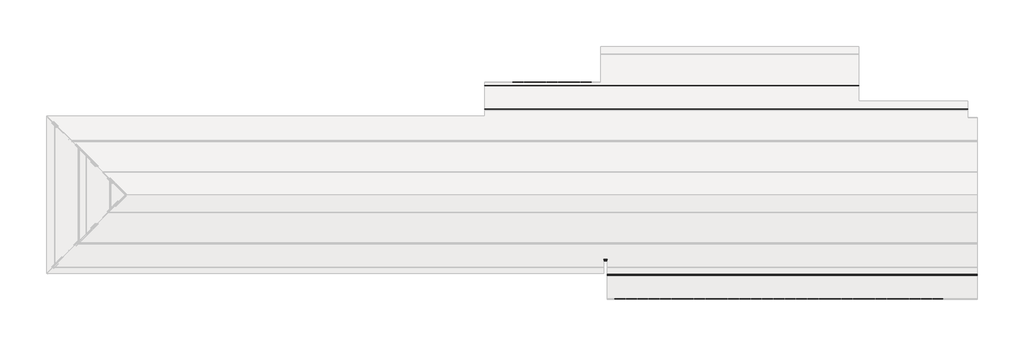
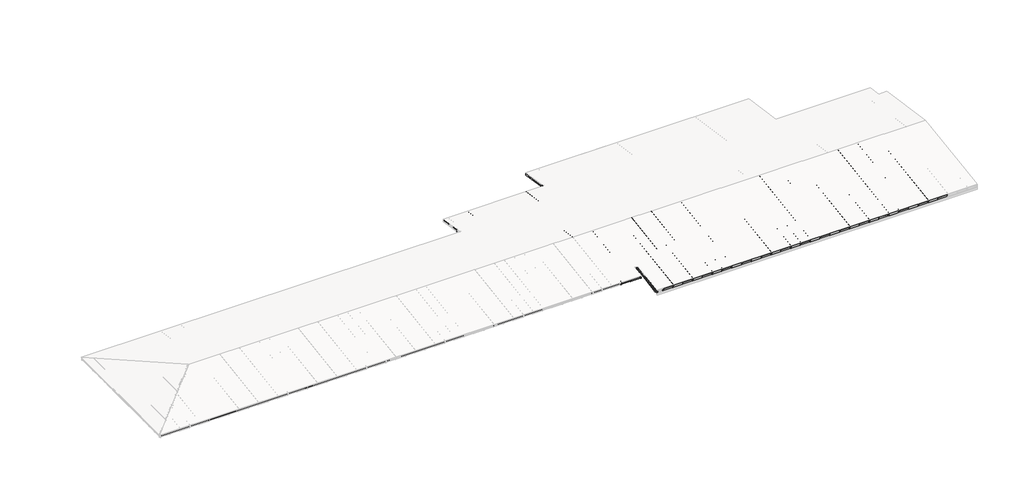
# One storey, part 4 of 5: 62 members, 45 plates.
"""IFC4 building model written with IfcOpenShell, lengths in millimetres."""

from ifc_helpers import new_model, si_unit, origin, place, context, project, spatial, transform, mapped, element, save
from components import rectangular_mullion_ed50eb17, rectangular_mullion_5ee41584, rectangular_mullion_e81b1cfb, rectangular_mullion_a5088d8e, rectangular_mullion_655400e7, rectangular_mullion_9c9e6337, rectangular_mullion_caibro_4x6_cm_25b96661, rectangular_mullion_caibro_4x6_cm_e1b55397, rectangular_mullion_caibro_4x6_cm_011e73ed, rectangular_mullion_caibro_4x6_cm_cc310553, rectangular_mullion_caibro_4x6_cm_ef3f1c05, rectangular_mullion_caibro_4x6_cm_1ae113c8, rectangular_mullion_caibro_4x6_cm_e77ada83, empty_system_panel_empty_7d408543, empty_system_panel_empty_43b0b6da, empty_system_panel_empty_694f84fb, empty_system_panel_empty_0cb638c6, empty_system_panel_empty_b911bb76, empty_system_panel_empty_867e5877, empty_system_panel_empty_82ea4807, empty_system_panel_empty_5a5e46bd

model = new_model("IFC4")

# Units and contexts
model_context = context("Model", 3, world=origin())
ifc_project = project(units=[si_unit("LENGTHUNIT", "METRE", prefix="MILLI")], contexts=[model_context])

# Site, building, storey
site = spatial("IfcSite", under=ifc_project)
building = spatial("IfcBuilding", under=site)
storey = spatial("IfcBuildingStorey", under=building, Name="NÍVEL 1", Elevation=3400.0)

# Members
placement = place(None, origin())
rectangular_mullion_shape = rectangular_mullion_ed50eb17(model_context)
element("IfcMember", 1, ObjectType="Rectangular Mullion : TERÇA 6x12 cm", at=placement, inside=storey, context=model_context, shape_type="MappedRepresentation", body=[
    mapped(rectangular_mullion_shape, transform((1382.6165906, -8219.6155133, 3301.445991), x_axis=(0.0, 0.9889363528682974, 0.1483404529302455), y_axis=(0.0, 0.1483404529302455, -0.9889363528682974), z_axis=(-1.0, 0.0, 0.0))),
])
rectangular_mullion_2_shape = rectangular_mullion_5ee41584(model_context)
element("IfcMember", 2, ObjectType="Rectangular Mullion : TERÇA 6x12 cm", at=placement, inside=storey, context=model_context, shape_type="MappedRepresentation", body=[
    mapped(rectangular_mullion_2_shape, transform((1382.6165906, -8117.0637549, 3316.8287548), x_axis=(0.0, -0.9889363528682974, -0.1483404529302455), y_axis=(0.0, 0.1483404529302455, -0.9889363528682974), z_axis=(1.0, 0.0, 0.0))),
])
rectangular_mullion_3_shape = rectangular_mullion_e81b1cfb(model_context)
element("IfcMember", 3, ObjectType="Rectangular Mullion : RIPA 4x2 cm", at=placement, inside=storey, context=model_context, shape_type="MappedRepresentation", body=[
    mapped(rectangular_mullion_3_shape, transform((1382.6165906, -8117.0637549, 3377.5), x_axis=(0.0, -0.9889363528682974, -0.1483404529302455), y_axis=(0.0, 0.1483404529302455, -0.9889363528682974), z_axis=(1.0, 0.0, 0.0))),
])
rectangular_mullion_4_shape = rectangular_mullion_a5088d8e(model_context)
element("IfcMember", 4, ObjectType="Rectangular Mullion : RIPA 4x2 cm", at=placement, inside=storey, context=model_context, shape_type="MappedRepresentation", body=[
    mapped(rectangular_mullion_4_shape, transform((1232.6165906, -8702.2297096, 3289.7251068), x_axis=(0.0, -0.9889363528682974, -0.1483404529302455), y_axis=(0.0, 0.1483404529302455, -0.9889363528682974), z_axis=(1.0, 0.0, 0.0))),
])
rectangular_mullion_5_shape = rectangular_mullion_655400e7(model_context)
element("IfcMember", 5, ObjectType="Rectangular Mullion : RIPA 4x2 cm", at=placement, inside=storey, context=model_context, shape_type="MappedRepresentation", body=[
    mapped(rectangular_mullion_5_shape, transform((1382.6165906, -9451.1573043, 3177.3859676), x_axis=(0.0, 0.9889363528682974, 0.1483404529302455), y_axis=(0.0, 0.1483404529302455, -0.9889363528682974), z_axis=(-1.0, 0.0, 0.0))),
])
element("IfcMember", 6, ObjectType="Rectangular Mullion : RIPA 4x2 cm", at=placement, inside=storey, context=model_context, shape_type="MappedRepresentation", body=[
    mapped(rectangular_mullion_5_shape, transform((1382.6165906, -9105.0295808, 3229.3051261), x_axis=(0.0, 0.9889363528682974, 0.1483404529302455), y_axis=(0.0, 0.1483404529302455, -0.9889363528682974), z_axis=(-1.0, 0.0, 0.0))),
])
element("IfcMember", 7, ObjectType="Rectangular Mullion : RIPA 4x2 cm", at=placement, inside=storey, context=model_context, shape_type="MappedRepresentation", body=[
    mapped(rectangular_mullion_5_shape, transform((1382.6165906, -8758.9018573, 3281.2242846), x_axis=(0.0, 0.9889363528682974, 0.1483404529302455), y_axis=(0.0, 0.1483404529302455, -0.9889363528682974), z_axis=(-1.0, 0.0, 0.0))),
])
element("IfcMember", 8, ObjectType="Rectangular Mullion : RIPA 4x2 cm", at=placement, inside=storey, context=model_context, shape_type="MappedRepresentation", body=[
    mapped(rectangular_mullion_5_shape, transform((1382.6165906, -8412.7741338, 3333.1434432), x_axis=(0.0, 0.9889363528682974, 0.1483404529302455), y_axis=(0.0, 0.1483404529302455, -0.9889363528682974), z_axis=(-1.0, 0.0, 0.0))),
])
rectangular_mullion_6_shape = rectangular_mullion_9c9e6337(model_context)
element("IfcMember", 9, ObjectType="Rectangular Mullion : TERÇA 6x12 cm", at=placement, inside=storey, context=model_context, shape_type="MappedRepresentation", body=[
    mapped(rectangular_mullion_6_shape, transform((1232.6165906, -8122.2297096, 3316.0538615), x_axis=(0.0, -0.9889363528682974, -0.1483404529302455), y_axis=(0.0, 0.1483404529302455, -0.9889363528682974), z_axis=(1.0, 0.0, 0.0))),
])
rectangular_mullion_caibro_4x6_cm_shape = rectangular_mullion_caibro_4x6_cm_25b96661(model_context)
element("IfcMember", 10, ObjectType="Rectangular Mullion : CAIBRO 4x6 cm", at=placement, inside=storey, context=model_context, shape_type="MappedRepresentation", body=[
    mapped(rectangular_mullion_caibro_4x6_cm_shape, transform((1382.6165906, -9817.0637549, 3122.5), x_axis=(-1.0, 0.0, 0.0), y_axis=(0.0, 0.14834045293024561, -0.9889363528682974), z_axis=(0.0, -0.9889363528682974, -0.14834045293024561))),
])
rectangular_mullion_caibro_4x6_cm_2_shape = rectangular_mullion_caibro_4x6_cm_e1b55397(model_context)
element("IfcMember", 11, ObjectType="Rectangular Mullion : CAIBRO 4x6 cm", at=placement, inside=storey, context=model_context, shape_type="MappedRepresentation", body=[
    mapped(rectangular_mullion_caibro_4x6_cm_2_shape, transform((1232.6165906, -8117.0637549, 3377.5), x_axis=(1.0, 0.0, 0.0), y_axis=(0.0, 0.14834045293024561, -0.9889363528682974), z_axis=(0.0, 0.9889363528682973, 0.1483404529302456))),
])
rectangular_mullion_caibro_4x6_cm_3_shape = rectangular_mullion_caibro_4x6_cm_011e73ed(model_context)
element("IfcMember", 12, ObjectType="Rectangular Mullion : CAIBRO 4x6 cm", at=placement, inside=storey, context=model_context, shape_type="MappedRepresentation", body=[
    mapped(rectangular_mullion_caibro_4x6_cm_3_shape, transform((1107.6165906, -292.0637549, 3063.25), x_axis=(-1.0, 0.0, 0.0), y_axis=(0.0, -0.14834045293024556, -0.9889363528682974), z_axis=(0.0, -0.9889363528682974, 0.14834045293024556))),
])
rectangular_mullion_caibro_4x6_cm_4_shape = rectangular_mullion_caibro_4x6_cm_cc310553(model_context)
element("IfcMember", 13, ObjectType="Rectangular Mullion : CAIBRO 4x6 cm", at=placement, inside=storey, context=model_context, shape_type="MappedRepresentation", body=[
    mapped(rectangular_mullion_caibro_4x6_cm_4_shape, transform((205.2896587, -5252.0637549, 3807.25), x_axis=(1.0, 0.0, 0.0), y_axis=(0.0, 0.1483404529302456, -0.9889363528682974), z_axis=(0.0, 0.9889363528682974, 0.1483404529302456))),
])
element("IfcMember", 14, ObjectType="Rectangular Mullion : CAIBRO 4x6 cm", at=placement, inside=storey, context=model_context, shape_type="MappedRepresentation", body=[
    mapped(rectangular_mullion_caibro_4x6_cm_4_shape, transform((704.4989997, -5252.0637549, 3807.25), x_axis=(1.0, 0.0, 0.0), y_axis=(0.0, 0.1483404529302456, -0.9889363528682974), z_axis=(0.0, 0.9889363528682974, 0.1483404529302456))),
])
rectangular_mullion_caibro_4x6_cm_5_shape = rectangular_mullion_caibro_4x6_cm_ef3f1c05(model_context)
element("IfcMember", 15, ObjectType="Rectangular Mullion : CAIBRO 4x6 cm", at=placement, inside=storey, context=model_context, shape_type="MappedRepresentation", body=[
    mapped(rectangular_mullion_caibro_4x6_cm_5_shape, transform((704.4989997, -5252.0637549, 3807.25), x_axis=(-1.0, 0.0, 0.0), y_axis=(0.0, -0.1483404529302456, -0.9889363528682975), z_axis=(0.0, -0.9889363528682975, 0.1483404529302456))),
])
element("IfcMember", 16, ObjectType="Rectangular Mullion : CAIBRO 4x6 cm", at=placement, inside=storey, context=model_context, shape_type="MappedRepresentation", body=[
    mapped(rectangular_mullion_caibro_4x6_cm_5_shape, transform((205.2896587, -5252.0637549, 3807.25), x_axis=(-1.0, 0.0, 0.0), y_axis=(0.0, -0.14834045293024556, -0.9889363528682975), z_axis=(0.0, -0.9889363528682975, 0.14834045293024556))),
])
element("IfcMember", 17, ObjectType="Rectangular Mullion : CAIBRO 4x6 cm", at=placement, inside=storey, context=model_context, shape_type="MappedRepresentation", body=[
    mapped(rectangular_mullion_caibro_4x6_cm_4_shape, transform((1203.7083406, -5252.0637549, 3807.25), x_axis=(1.0, 0.0, 0.0), y_axis=(0.0, 0.1483404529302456, -0.9889363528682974), z_axis=(0.0, 0.9889363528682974, 0.1483404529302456))),
])
rectangular_mullion_caibro_4x6_cm_6_shape = rectangular_mullion_caibro_4x6_cm_1ae113c8(model_context)
element("IfcMember", 18, ObjectType="Rectangular Mullion : CAIBRO 4x6 cm", at=placement, inside=storey, context=model_context, shape_type="MappedRepresentation", body=[
    mapped(rectangular_mullion_caibro_4x6_cm_6_shape, transform((1203.7083406, -5252.0637549, 3807.25), x_axis=(-1.0, 0.0, 0.0), y_axis=(0.0, -0.14834045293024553, -0.9889363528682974), z_axis=(0.0, -0.9889363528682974, 0.14834045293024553))),
])
rectangular_mullion_caibro_4x6_cm_7_shape = rectangular_mullion_caibro_4x6_cm_e77ada83(model_context)
element("IfcMember", 19, ObjectType="Rectangular Mullion : CAIBRO 4x6 cm", at=placement, inside=storey, context=model_context, shape_type="MappedRepresentation", body=[
    mapped(rectangular_mullion_caibro_4x6_cm_7_shape, transform((1702.9176815, -5252.0637549, 3807.25), x_axis=(1.0, 0.0, 0.0), y_axis=(0.0, 0.14834045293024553, -0.9889363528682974), z_axis=(0.0, 0.9889363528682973, 0.1483404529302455))),
])
element("IfcMember", 20, ObjectType="Rectangular Mullion : CAIBRO 4x6 cm", at=placement, inside=storey, context=model_context, shape_type="MappedRepresentation", body=[
    mapped(rectangular_mullion_caibro_4x6_cm_7_shape, transform((2202.1270224, -5252.0637549, 3807.25), x_axis=(1.0, 0.0, 0.0), y_axis=(0.0, 0.14834045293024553, -0.9889363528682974), z_axis=(0.0, 0.9889363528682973, 0.1483404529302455))),
])
element("IfcMember", 21, ObjectType="Rectangular Mullion : CAIBRO 4x6 cm", at=placement, inside=storey, context=model_context, shape_type="MappedRepresentation", body=[
    mapped(rectangular_mullion_caibro_4x6_cm_7_shape, transform((2701.3363633, -5252.0637549, 3807.25), x_axis=(1.0, 0.0, 0.0), y_axis=(0.0, 0.1483404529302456, -0.9889363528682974), z_axis=(0.0, 0.9889363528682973, 0.14834045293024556))),
])
element("IfcMember", 22, ObjectType="Rectangular Mullion : CAIBRO 4x6 cm", at=placement, inside=storey, context=model_context, shape_type="MappedRepresentation", body=[
    mapped(rectangular_mullion_caibro_4x6_cm_7_shape, transform((3200.5457042, -5252.0637549, 3807.25), x_axis=(1.0, 0.0, 0.0), y_axis=(0.0, 0.1483404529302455, -0.9889363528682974), z_axis=(0.0, 0.9889363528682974, 0.1483404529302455))),
])
element("IfcMember", 23, ObjectType="Rectangular Mullion : CAIBRO 4x6 cm", at=placement, inside=storey, context=model_context, shape_type="MappedRepresentation", body=[
    mapped(rectangular_mullion_caibro_4x6_cm_7_shape, transform((3699.7550451, -5252.0637549, 3807.25), x_axis=(1.0, 0.0, 0.0), y_axis=(0.0, 0.14834045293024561, -0.9889363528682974), z_axis=(0.0, 0.9889363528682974, 0.14834045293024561))),
])
element("IfcMember", 24, ObjectType="Rectangular Mullion : CAIBRO 4x6 cm", at=placement, inside=storey, context=model_context, shape_type="MappedRepresentation", body=[
    mapped(rectangular_mullion_caibro_4x6_cm_7_shape, transform((4198.964386, -5252.0637549, 3807.25), x_axis=(1.0, 0.0, 0.0), y_axis=(0.0, 0.14834045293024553, -0.9889363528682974), z_axis=(0.0, 0.9889363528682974, 0.14834045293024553))),
])
element("IfcMember", 25, ObjectType="Rectangular Mullion : CAIBRO 4x6 cm", at=placement, inside=storey, context=model_context, shape_type="MappedRepresentation", body=[
    mapped(rectangular_mullion_caibro_4x6_cm_7_shape, transform((4698.1737269, -5252.0637549, 3807.25), x_axis=(1.0, 0.0, 0.0), y_axis=(0.0, 0.1483404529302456, -0.9889363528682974), z_axis=(0.0, 0.9889363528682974, 0.1483404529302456))),
])
element("IfcMember", 26, ObjectType="Rectangular Mullion : CAIBRO 4x6 cm", at=placement, inside=storey, context=model_context, shape_type="MappedRepresentation", body=[
    mapped(rectangular_mullion_caibro_4x6_cm_7_shape, transform((5197.3830679, -5252.0637549, 3807.25), x_axis=(1.0, 0.0, 0.0), y_axis=(0.0, 0.14834045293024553, -0.9889363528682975), z_axis=(0.0, 0.9889363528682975, 0.14834045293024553))),
])
element("IfcMember", 27, ObjectType="Rectangular Mullion : CAIBRO 4x6 cm", at=placement, inside=storey, context=model_context, shape_type="MappedRepresentation", body=[
    mapped(rectangular_mullion_caibro_4x6_cm_7_shape, transform((5696.5924088, -5252.0637549, 3807.25), x_axis=(1.0, 0.0, 0.0), y_axis=(0.0, 0.14834045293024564, -0.9889363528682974), z_axis=(0.0, 0.9889363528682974, 0.14834045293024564))),
])
element("IfcMember", 28, ObjectType="Rectangular Mullion : CAIBRO 4x6 cm", at=placement, inside=storey, context=model_context, shape_type="MappedRepresentation", body=[
    mapped(rectangular_mullion_caibro_4x6_cm_7_shape, transform((6195.8017497, -5252.0637549, 3807.25), x_axis=(1.0, 0.0, 0.0), y_axis=(0.0, 0.14834045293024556, -0.9889363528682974), z_axis=(0.0, 0.9889363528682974, 0.14834045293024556))),
])
element("IfcMember", 29, ObjectType="Rectangular Mullion : CAIBRO 4x6 cm", at=placement, inside=storey, context=model_context, shape_type="MappedRepresentation", body=[
    mapped(rectangular_mullion_caibro_4x6_cm_7_shape, transform((6695.0110906, -5252.0637549, 3807.25), x_axis=(1.0, 0.0, 0.0), y_axis=(0.0, 0.1483404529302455, -0.9889363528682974), z_axis=(0.0, 0.9889363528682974, 0.1483404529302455))),
])
element("IfcMember", 30, ObjectType="Rectangular Mullion : CAIBRO 4x6 cm", at=placement, inside=storey, context=model_context, shape_type="MappedRepresentation", body=[
    mapped(rectangular_mullion_caibro_4x6_cm_7_shape, transform((7194.2204315, -5252.0637549, 3807.25), x_axis=(1.0, 0.0, 0.0), y_axis=(0.0, 0.14834045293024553, -0.9889363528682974), z_axis=(0.0, 0.9889363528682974, 0.14834045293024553))),
])
element("IfcMember", 31, ObjectType="Rectangular Mullion : CAIBRO 4x6 cm", at=placement, inside=storey, context=model_context, shape_type="MappedRepresentation", body=[
    mapped(rectangular_mullion_caibro_4x6_cm_7_shape, transform((7693.4297724, -5252.0637549, 3807.25), x_axis=(1.0, 0.0, 0.0), y_axis=(0.0, 0.14834045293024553, -0.9889363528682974), z_axis=(0.0, 0.9889363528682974, 0.14834045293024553))),
])
element("IfcMember", 32, ObjectType="Rectangular Mullion : CAIBRO 4x6 cm", at=placement, inside=storey, context=model_context, shape_type="MappedRepresentation", body=[
    mapped(rectangular_mullion_caibro_4x6_cm_7_shape, transform((8192.6391133, -5252.0637549, 3807.25), x_axis=(1.0, 0.0, 0.0), y_axis=(0.0, 0.1483404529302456, -0.9889363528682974), z_axis=(0.0, 0.9889363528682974, 0.1483404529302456))),
])
element("IfcMember", 33, ObjectType="Rectangular Mullion : CAIBRO 4x6 cm", at=placement, inside=storey, context=model_context, shape_type="MappedRepresentation", body=[
    mapped(rectangular_mullion_caibro_4x6_cm_7_shape, transform((8691.8484542, -5252.0637549, 3807.25), x_axis=(1.0, 0.0, 0.0), y_axis=(0.0, 0.14834045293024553, -0.9889363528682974), z_axis=(0.0, 0.9889363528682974, 0.14834045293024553))),
])
element("IfcMember", 34, ObjectType="Rectangular Mullion : CAIBRO 4x6 cm", at=placement, inside=storey, context=model_context, shape_type="MappedRepresentation", body=[
    mapped(rectangular_mullion_caibro_4x6_cm_7_shape, transform((9191.0577951, -5252.0637549, 3807.25), x_axis=(1.0, 0.0, 0.0), y_axis=(0.0, 0.14834045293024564, -0.9889363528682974), z_axis=(0.0, 0.9889363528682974, 0.14834045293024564))),
])
element("IfcMember", 35, ObjectType="Rectangular Mullion : CAIBRO 4x6 cm", at=placement, inside=storey, context=model_context, shape_type="MappedRepresentation", body=[
    mapped(rectangular_mullion_caibro_4x6_cm_7_shape, transform((9690.2671361, -5252.0637549, 3807.25), x_axis=(1.0, 0.0, 0.0), y_axis=(0.0, 0.14834045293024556, -0.9889363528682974), z_axis=(0.0, 0.9889363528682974, 0.14834045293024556))),
])
element("IfcMember", 36, ObjectType="Rectangular Mullion : CAIBRO 4x6 cm", at=placement, inside=storey, context=model_context, shape_type="MappedRepresentation", body=[
    mapped(rectangular_mullion_caibro_4x6_cm_7_shape, transform((10189.476477, -5252.0637549, 3807.25), x_axis=(1.0, 0.0, 0.0), y_axis=(0.0, 0.14834045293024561, -0.9889363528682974), z_axis=(0.0, 0.9889363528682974, 0.14834045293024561))),
])
element("IfcMember", 37, ObjectType="Rectangular Mullion : CAIBRO 4x6 cm", at=placement, inside=storey, context=model_context, shape_type="MappedRepresentation", body=[
    mapped(rectangular_mullion_caibro_4x6_cm_7_shape, transform((10688.6858179, -5252.0637549, 3807.25), x_axis=(1.0, 0.0, 0.0), y_axis=(0.0, 0.14834045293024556, -0.9889363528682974), z_axis=(0.0, 0.9889363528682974, 0.14834045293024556))),
])
element("IfcMember", 38, ObjectType="Rectangular Mullion : CAIBRO 4x6 cm", at=placement, inside=storey, context=model_context, shape_type="MappedRepresentation", body=[
    mapped(rectangular_mullion_caibro_4x6_cm_7_shape, transform((11187.8951588, -5252.0637549, 3807.25), x_axis=(1.0, 0.0, 0.0), y_axis=(0.0, 0.1483404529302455, -0.9889363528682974), z_axis=(0.0, 0.9889363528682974, 0.1483404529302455))),
])
element("IfcMember", 39, ObjectType="Rectangular Mullion : CAIBRO 4x6 cm", at=placement, inside=storey, context=model_context, shape_type="MappedRepresentation", body=[
    mapped(rectangular_mullion_caibro_4x6_cm_7_shape, transform((11687.1044997, -5252.0637549, 3807.25), x_axis=(1.0, 0.0, 0.0), y_axis=(0.0, 0.14834045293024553, -0.9889363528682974), z_axis=(0.0, 0.9889363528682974, 0.14834045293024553))),
])
element("IfcMember", 40, ObjectType="Rectangular Mullion : CAIBRO 4x6 cm", at=placement, inside=storey, context=model_context, shape_type="MappedRepresentation", body=[
    mapped(rectangular_mullion_caibro_4x6_cm_7_shape, transform((12186.3138406, -5252.0637549, 3807.25), x_axis=(1.0, 0.0, 0.0), y_axis=(0.0, 0.1483404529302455, -0.9889363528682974), z_axis=(0.0, 0.9889363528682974, 0.1483404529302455))),
])
element("IfcMember", 41, ObjectType="Rectangular Mullion : CAIBRO 4x6 cm", at=placement, inside=storey, context=model_context, shape_type="MappedRepresentation", body=[
    mapped(rectangular_mullion_caibro_4x6_cm_6_shape, transform((11687.1044997, -5252.0637549, 3807.25), x_axis=(-1.0, 0.0, 0.0), y_axis=(0.0, -0.14834045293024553, -0.9889363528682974), z_axis=(0.0, -0.9889363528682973, 0.1483404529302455))),
])
element("IfcMember", 42, ObjectType="Rectangular Mullion : CAIBRO 4x6 cm", at=placement, inside=storey, context=model_context, shape_type="MappedRepresentation", body=[
    mapped(rectangular_mullion_caibro_4x6_cm_6_shape, transform((11187.8951588, -5252.0637549, 3807.25), x_axis=(-1.0, 0.0, 0.0), y_axis=(0.0, -0.1483404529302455, -0.9889363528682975), z_axis=(0.0, -0.9889363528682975, 0.1483404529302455))),
])
element("IfcMember", 43, ObjectType="Rectangular Mullion : CAIBRO 4x6 cm", at=placement, inside=storey, context=model_context, shape_type="MappedRepresentation", body=[
    mapped(rectangular_mullion_caibro_4x6_cm_6_shape, transform((10688.6858179, -5252.0637549, 3807.25), x_axis=(-1.0, 0.0, 0.0), y_axis=(0.0, -0.14834045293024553, -0.9889363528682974), z_axis=(0.0, -0.9889363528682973, 0.1483404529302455))),
])
element("IfcMember", 44, ObjectType="Rectangular Mullion : CAIBRO 4x6 cm", at=placement, inside=storey, context=model_context, shape_type="MappedRepresentation", body=[
    mapped(rectangular_mullion_caibro_4x6_cm_6_shape, transform((10189.476477, -5252.0637549, 3807.25), x_axis=(-1.0, 0.0, 0.0), y_axis=(0.0, -0.1483404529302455, -0.9889363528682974), z_axis=(0.0, -0.9889363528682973, 0.14834045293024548))),
])
element("IfcMember", 45, ObjectType="Rectangular Mullion : CAIBRO 4x6 cm", at=placement, inside=storey, context=model_context, shape_type="MappedRepresentation", body=[
    mapped(rectangular_mullion_caibro_4x6_cm_6_shape, transform((9690.2671361, -5252.0637549, 3807.25), x_axis=(-1.0, 0.0, 0.0), y_axis=(0.0, -0.14834045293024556, -0.9889363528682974), z_axis=(0.0, -0.9889363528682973, 0.14834045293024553))),
])
element("IfcMember", 46, ObjectType="Rectangular Mullion : CAIBRO 4x6 cm", at=placement, inside=storey, context=model_context, shape_type="MappedRepresentation", body=[
    mapped(rectangular_mullion_caibro_4x6_cm_6_shape, transform((9191.0577951, -5252.0637549, 3807.25), x_axis=(-1.0, 0.0, 0.0), y_axis=(0.0, -0.1483404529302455, -0.9889363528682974), z_axis=(0.0, -0.9889363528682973, 0.14834045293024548))),
])
element("IfcMember", 47, ObjectType="Rectangular Mullion : CAIBRO 4x6 cm", at=placement, inside=storey, context=model_context, shape_type="MappedRepresentation", body=[
    mapped(rectangular_mullion_caibro_4x6_cm_6_shape, transform((8691.8484542, -5252.0637549, 3807.25), x_axis=(-1.0, 0.0, 0.0), y_axis=(0.0, -0.14834045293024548, -0.9889363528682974), z_axis=(0.0, -0.9889363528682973, 0.14834045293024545))),
])
element("IfcMember", 48, ObjectType="Rectangular Mullion : CAIBRO 4x6 cm", at=placement, inside=storey, context=model_context, shape_type="MappedRepresentation", body=[
    mapped(rectangular_mullion_caibro_4x6_cm_6_shape, transform((8192.6391133, -5252.0637549, 3807.25), x_axis=(-1.0, 0.0, 0.0), y_axis=(0.0, -0.14834045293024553, -0.9889363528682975), z_axis=(0.0, -0.9889363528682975, 0.14834045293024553))),
])
element("IfcMember", 49, ObjectType="Rectangular Mullion : CAIBRO 4x6 cm", at=placement, inside=storey, context=model_context, shape_type="MappedRepresentation", body=[
    mapped(rectangular_mullion_caibro_4x6_cm_6_shape, transform((7693.4297724, -5252.0637549, 3807.25), x_axis=(-1.0, 0.0, 0.0), y_axis=(0.0, -0.14834045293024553, -0.9889363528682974), z_axis=(0.0, -0.9889363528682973, 0.1483404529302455))),
])
element("IfcMember", 50, ObjectType="Rectangular Mullion : CAIBRO 4x6 cm", at=placement, inside=storey, context=model_context, shape_type="MappedRepresentation", body=[
    mapped(rectangular_mullion_caibro_4x6_cm_6_shape, transform((7194.2204315, -5252.0637549, 3807.25), x_axis=(-1.0, 0.0, 0.0), y_axis=(0.0, -0.1483404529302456, -0.9889363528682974), z_axis=(0.0, -0.9889363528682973, 0.14834045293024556))),
])
element("IfcMember", 51, ObjectType="Rectangular Mullion : CAIBRO 4x6 cm", at=placement, inside=storey, context=model_context, shape_type="MappedRepresentation", body=[
    mapped(rectangular_mullion_caibro_4x6_cm_6_shape, transform((6695.0110906, -5252.0637549, 3807.25), x_axis=(-1.0, 0.0, 0.0), y_axis=(0.0, -0.14834045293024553, -0.9889363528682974), z_axis=(0.0, -0.9889363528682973, 0.1483404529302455))),
])
element("IfcMember", 52, ObjectType="Rectangular Mullion : CAIBRO 4x6 cm", at=placement, inside=storey, context=model_context, shape_type="MappedRepresentation", body=[
    mapped(rectangular_mullion_caibro_4x6_cm_6_shape, transform((6195.8017497, -5252.0637549, 3807.25), x_axis=(-1.0, 0.0, 0.0), y_axis=(0.0, -0.14834045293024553, -0.9889363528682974), z_axis=(0.0, -0.9889363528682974, 0.14834045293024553))),
])
element("IfcMember", 53, ObjectType="Rectangular Mullion : CAIBRO 4x6 cm", at=placement, inside=storey, context=model_context, shape_type="MappedRepresentation", body=[
    mapped(rectangular_mullion_caibro_4x6_cm_6_shape, transform((5696.5924088, -5252.0637549, 3807.25), x_axis=(-1.0, 0.0, 0.0), y_axis=(0.0, -0.14834045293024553, -0.9889363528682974), z_axis=(0.0, -0.9889363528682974, 0.14834045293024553))),
])
element("IfcMember", 54, ObjectType="Rectangular Mullion : CAIBRO 4x6 cm", at=placement, inside=storey, context=model_context, shape_type="MappedRepresentation", body=[
    mapped(rectangular_mullion_caibro_4x6_cm_6_shape, transform((5197.3830679, -5252.0637549, 3807.25), x_axis=(-1.0, 0.0, 0.0), y_axis=(0.0, -0.14834045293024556, -0.9889363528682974), z_axis=(0.0, -0.9889363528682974, 0.14834045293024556))),
])
element("IfcMember", 55, ObjectType="Rectangular Mullion : CAIBRO 4x6 cm", at=placement, inside=storey, context=model_context, shape_type="MappedRepresentation", body=[
    mapped(rectangular_mullion_caibro_4x6_cm_6_shape, transform((4698.1737269, -5252.0637549, 3807.25), x_axis=(-1.0, 0.0, 0.0), y_axis=(0.0, -0.14834045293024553, -0.9889363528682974), z_axis=(0.0, -0.9889363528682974, 0.14834045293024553))),
])
element("IfcMember", 56, ObjectType="Rectangular Mullion : CAIBRO 4x6 cm", at=placement, inside=storey, context=model_context, shape_type="MappedRepresentation", body=[
    mapped(rectangular_mullion_caibro_4x6_cm_6_shape, transform((4198.964386, -5252.0637549, 3807.25), x_axis=(-1.0, 0.0, 0.0), y_axis=(0.0, -0.14834045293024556, -0.9889363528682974), z_axis=(0.0, -0.9889363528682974, 0.14834045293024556))),
])
element("IfcMember", 57, ObjectType="Rectangular Mullion : CAIBRO 4x6 cm", at=placement, inside=storey, context=model_context, shape_type="MappedRepresentation", body=[
    mapped(rectangular_mullion_caibro_4x6_cm_6_shape, transform((3699.7550451, -5252.0637549, 3807.25), x_axis=(-1.0, 0.0, 0.0), y_axis=(0.0, -0.1483404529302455, -0.9889363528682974), z_axis=(0.0, -0.9889363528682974, 0.1483404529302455))),
])
element("IfcMember", 58, ObjectType="Rectangular Mullion : CAIBRO 4x6 cm", at=placement, inside=storey, context=model_context, shape_type="MappedRepresentation", body=[
    mapped(rectangular_mullion_caibro_4x6_cm_6_shape, transform((3200.5457042, -5252.0637549, 3807.25), x_axis=(-1.0, 0.0, 0.0), y_axis=(0.0, -0.14834045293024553, -0.9889363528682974), z_axis=(0.0, -0.9889363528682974, 0.14834045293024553))),
])
element("IfcMember", 59, ObjectType="Rectangular Mullion : CAIBRO 4x6 cm", at=placement, inside=storey, context=model_context, shape_type="MappedRepresentation", body=[
    mapped(rectangular_mullion_caibro_4x6_cm_6_shape, transform((2701.3363633, -5252.0637549, 3807.25), x_axis=(-1.0, 0.0, 0.0), y_axis=(0.0, -0.14834045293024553, -0.9889363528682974), z_axis=(0.0, -0.9889363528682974, 0.14834045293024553))),
])
element("IfcMember", 60, ObjectType="Rectangular Mullion : CAIBRO 4x6 cm", at=placement, inside=storey, context=model_context, shape_type="MappedRepresentation", body=[
    mapped(rectangular_mullion_caibro_4x6_cm_6_shape, transform((2202.1270224, -5252.0637549, 3807.25), x_axis=(-1.0, 0.0, 0.0), y_axis=(0.0, -0.1483404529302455, -0.9889363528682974), z_axis=(0.0, -0.9889363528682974, 0.1483404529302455))),
])
element("IfcMember", 61, ObjectType="Rectangular Mullion : CAIBRO 4x6 cm", at=placement, inside=storey, context=model_context, shape_type="MappedRepresentation", body=[
    mapped(rectangular_mullion_caibro_4x6_cm_6_shape, transform((1702.9176815, -5252.0637549, 3807.25), x_axis=(-1.0, 0.0, 0.0), y_axis=(0.0, -0.14834045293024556, -0.9889363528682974), z_axis=(0.0, -0.9889363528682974, 0.14834045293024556))),
])
element("IfcMember", 62, ObjectType="Rectangular Mullion : CAIBRO 4x6 cm", at=placement, inside=storey, context=model_context, shape_type="MappedRepresentation", body=[
    mapped(rectangular_mullion_caibro_4x6_cm_7_shape, transform((12685.5231815, -5252.0637549, 3807.25), x_axis=(1.0, 0.0, 0.0), y_axis=(0.0, 0.14834045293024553, -0.9889363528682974), z_axis=(0.0, 0.9889363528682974, 0.14834045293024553))),
])

# Plates
empty_system_panel_empty_shape = empty_system_panel_empty_7d408543(model_context)
element("IfcPlate", 63, ObjectType="Empty System Panel : Empty", at=placement, inside=storey, context=model_context, shape_type="MappedRepresentation", body=[
    mapped(empty_system_panel_empty_shape, transform((454.8943292, -8702.2297096, 3289.7251068), x_axis=(1.0, 0.0, 0.0), y_axis=(0.0, 0.1483404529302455, -0.9889363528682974), z_axis=(0.0, 0.9889363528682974, 0.1483404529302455))),
])
element("IfcPlate", 64, ObjectType="Empty System Panel : Empty", at=placement, inside=storey, context=model_context, shape_type="MappedRepresentation", body=[
    mapped(empty_system_panel_empty_shape, transform((954.1036701, -8702.2297096, 3289.7251068), x_axis=(1.0, 0.0, 0.0), y_axis=(0.0, 0.1483404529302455, -0.9889363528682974), z_axis=(0.0, 0.9889363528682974, 0.1483404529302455))),
])
empty_system_panel_empty_2_shape = empty_system_panel_empty_43b0b6da(model_context)
element("IfcPlate", 65, ObjectType="Empty System Panel : Empty", at=placement, inside=storey, context=model_context, shape_type="MappedRepresentation", body=[
    mapped(empty_system_panel_empty_2_shape, transform((1952.5223519, -9817.0637549, 3122.5), x_axis=(1.0, 0.0, 0.0), y_axis=(0.0, 0.1483404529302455, -0.9889363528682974), z_axis=(0.0, 0.9889363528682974, 0.1483404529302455))),
])
element("IfcPlate", 66, ObjectType="Empty System Panel : Empty", at=placement, inside=storey, context=model_context, shape_type="MappedRepresentation", body=[
    mapped(empty_system_panel_empty_2_shape, transform((2451.7316928, -9817.0637549, 3122.5), x_axis=(1.0, 0.0, 0.0), y_axis=(0.0, 0.1483404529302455, -0.9889363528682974), z_axis=(0.0, 0.9889363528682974, 0.1483404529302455))),
])
element("IfcPlate", 67, ObjectType="Empty System Panel : Empty", at=placement, inside=storey, context=model_context, shape_type="MappedRepresentation", body=[
    mapped(empty_system_panel_empty_2_shape, transform((2950.9410338, -9817.0637549, 3122.5), x_axis=(1.0, 0.0, 0.0), y_axis=(0.0, 0.1483404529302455, -0.9889363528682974), z_axis=(0.0, 0.9889363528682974, 0.1483404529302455))),
])
element("IfcPlate", 68, ObjectType="Empty System Panel : Empty", at=placement, inside=storey, context=model_context, shape_type="MappedRepresentation", body=[
    mapped(empty_system_panel_empty_2_shape, transform((3450.1503747, -9817.0637549, 3122.5), x_axis=(1.0, 0.0, 0.0), y_axis=(0.0, 0.1483404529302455, -0.9889363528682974), z_axis=(0.0, 0.9889363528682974, 0.1483404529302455))),
])
element("IfcPlate", 69, ObjectType="Empty System Panel : Empty", at=placement, inside=storey, context=model_context, shape_type="MappedRepresentation", body=[
    mapped(empty_system_panel_empty_2_shape, transform((3949.3597156, -9817.0637549, 3122.5), x_axis=(1.0, 0.0, 0.0), y_axis=(0.0, 0.1483404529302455, -0.9889363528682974), z_axis=(0.0, 0.9889363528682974, 0.1483404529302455))),
])
element("IfcPlate", 70, ObjectType="Empty System Panel : Empty", at=placement, inside=storey, context=model_context, shape_type="MappedRepresentation", body=[
    mapped(empty_system_panel_empty_2_shape, transform((4448.5690565, -9817.0637549, 3122.5), x_axis=(1.0, 0.0, 0.0), y_axis=(0.0, 0.1483404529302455, -0.9889363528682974), z_axis=(0.0, 0.9889363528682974, 0.1483404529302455))),
])
element("IfcPlate", 71, ObjectType="Empty System Panel : Empty", at=placement, inside=storey, context=model_context, shape_type="MappedRepresentation", body=[
    mapped(empty_system_panel_empty_2_shape, transform((4947.7783974, -9817.0637549, 3122.5), x_axis=(1.0, 0.0, 0.0), y_axis=(0.0, 0.1483404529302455, -0.9889363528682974), z_axis=(0.0, 0.9889363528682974, 0.1483404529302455))),
])
element("IfcPlate", 72, ObjectType="Empty System Panel : Empty", at=placement, inside=storey, context=model_context, shape_type="MappedRepresentation", body=[
    mapped(empty_system_panel_empty_2_shape, transform((5446.9877383, -9817.0637549, 3122.5), x_axis=(1.0, 0.0, 0.0), y_axis=(0.0, 0.1483404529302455, -0.9889363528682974), z_axis=(0.0, 0.9889363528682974, 0.1483404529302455))),
])
element("IfcPlate", 73, ObjectType="Empty System Panel : Empty", at=placement, inside=storey, context=model_context, shape_type="MappedRepresentation", body=[
    mapped(empty_system_panel_empty_2_shape, transform((5946.1970792, -9817.0637549, 3122.5), x_axis=(1.0, 0.0, 0.0), y_axis=(0.0, 0.1483404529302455, -0.9889363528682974), z_axis=(0.0, 0.9889363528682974, 0.1483404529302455))),
])
element("IfcPlate", 74, ObjectType="Empty System Panel : Empty", at=placement, inside=storey, context=model_context, shape_type="MappedRepresentation", body=[
    mapped(empty_system_panel_empty_2_shape, transform((6445.4064201, -9817.0637549, 3122.5), x_axis=(1.0, 0.0, 0.0), y_axis=(0.0, 0.1483404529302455, -0.9889363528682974), z_axis=(0.0, 0.9889363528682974, 0.1483404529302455))),
])
element("IfcPlate", 75, ObjectType="Empty System Panel : Empty", at=placement, inside=storey, context=model_context, shape_type="MappedRepresentation", body=[
    mapped(empty_system_panel_empty_2_shape, transform((6944.615761, -9817.0637549, 3122.5), x_axis=(1.0, 0.0, 0.0), y_axis=(0.0, 0.1483404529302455, -0.9889363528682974), z_axis=(0.0, 0.9889363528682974, 0.1483404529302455))),
])
element("IfcPlate", 76, ObjectType="Empty System Panel : Empty", at=placement, inside=storey, context=model_context, shape_type="MappedRepresentation", body=[
    mapped(empty_system_panel_empty_2_shape, transform((7443.825102, -9817.0637549, 3122.5), x_axis=(1.0, 0.0, 0.0), y_axis=(0.0, 0.1483404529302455, -0.9889363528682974), z_axis=(0.0, 0.9889363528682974, 0.1483404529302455))),
])
element("IfcPlate", 77, ObjectType="Empty System Panel : Empty", at=placement, inside=storey, context=model_context, shape_type="MappedRepresentation", body=[
    mapped(empty_system_panel_empty_2_shape, transform((7943.0344429, -9817.0637549, 3122.5), x_axis=(1.0, 0.0, 0.0), y_axis=(0.0, 0.1483404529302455, -0.9889363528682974), z_axis=(0.0, 0.9889363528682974, 0.1483404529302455))),
])
element("IfcPlate", 78, ObjectType="Empty System Panel : Empty", at=placement, inside=storey, context=model_context, shape_type="MappedRepresentation", body=[
    mapped(empty_system_panel_empty_2_shape, transform((8442.2437838, -9817.0637549, 3122.5), x_axis=(1.0, 0.0, 0.0), y_axis=(0.0, 0.1483404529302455, -0.9889363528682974), z_axis=(0.0, 0.9889363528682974, 0.1483404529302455))),
])
element("IfcPlate", 79, ObjectType="Empty System Panel : Empty", at=placement, inside=storey, context=model_context, shape_type="MappedRepresentation", body=[
    mapped(empty_system_panel_empty_2_shape, transform((8941.4531247, -9817.0637549, 3122.5), x_axis=(1.0, 0.0, 0.0), y_axis=(0.0, 0.1483404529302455, -0.9889363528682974), z_axis=(0.0, 0.9889363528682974, 0.1483404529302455))),
])
element("IfcPlate", 80, ObjectType="Empty System Panel : Empty", at=placement, inside=storey, context=model_context, shape_type="MappedRepresentation", body=[
    mapped(empty_system_panel_empty_2_shape, transform((9440.6624656, -9817.0637549, 3122.5), x_axis=(1.0, 0.0, 0.0), y_axis=(0.0, 0.1483404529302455, -0.9889363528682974), z_axis=(0.0, 0.9889363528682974, 0.1483404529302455))),
])
element("IfcPlate", 81, ObjectType="Empty System Panel : Empty", at=placement, inside=storey, context=model_context, shape_type="MappedRepresentation", body=[
    mapped(empty_system_panel_empty_2_shape, transform((9939.8718065, -9817.0637549, 3122.5), x_axis=(1.0, 0.0, 0.0), y_axis=(0.0, 0.1483404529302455, -0.9889363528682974), z_axis=(0.0, 0.9889363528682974, 0.1483404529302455))),
])
element("IfcPlate", 82, ObjectType="Empty System Panel : Empty", at=placement, inside=storey, context=model_context, shape_type="MappedRepresentation", body=[
    mapped(empty_system_panel_empty_2_shape, transform((10439.0811474, -9817.0637549, 3122.5), x_axis=(1.0, 0.0, 0.0), y_axis=(0.0, 0.1483404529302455, -0.9889363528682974), z_axis=(0.0, 0.9889363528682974, 0.1483404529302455))),
])
element("IfcPlate", 83, ObjectType="Empty System Panel : Empty", at=placement, inside=storey, context=model_context, shape_type="MappedRepresentation", body=[
    mapped(empty_system_panel_empty_2_shape, transform((10938.2904883, -9817.0637549, 3122.5), x_axis=(1.0, 0.0, 0.0), y_axis=(0.0, 0.1483404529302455, -0.9889363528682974), z_axis=(0.0, 0.9889363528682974, 0.1483404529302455))),
])
element("IfcPlate", 84, ObjectType="Empty System Panel : Empty", at=placement, inside=storey, context=model_context, shape_type="MappedRepresentation", body=[
    mapped(empty_system_panel_empty_2_shape, transform((11437.4998292, -9817.0637549, 3122.5), x_axis=(1.0, 0.0, 0.0), y_axis=(0.0, 0.1483404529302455, -0.9889363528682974), z_axis=(0.0, 0.9889363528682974, 0.1483404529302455))),
])
element("IfcPlate", 85, ObjectType="Empty System Panel : Empty", at=placement, inside=storey, context=model_context, shape_type="MappedRepresentation", body=[
    mapped(empty_system_panel_empty_2_shape, transform((11936.7091702, -9817.0637549, 3122.5), x_axis=(1.0, 0.0, 0.0), y_axis=(0.0, 0.1483404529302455, -0.9889363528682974), z_axis=(0.0, 0.9889363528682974, 0.1483404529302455))),
])
element("IfcPlate", 86, ObjectType="Empty System Panel : Empty", at=placement, inside=storey, context=model_context, shape_type="MappedRepresentation", body=[
    mapped(empty_system_panel_empty_2_shape, transform((12435.9185111, -9817.0637549, 3122.5), x_axis=(1.0, 0.0, 0.0), y_axis=(0.0, 0.1483404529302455, -0.9889363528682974), z_axis=(0.0, 0.9889363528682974, 0.1483404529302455))),
])
element("IfcPlate", 87, ObjectType="Empty System Panel : Empty", at=placement, inside=storey, context=model_context, shape_type="MappedRepresentation", body=[
    mapped(empty_system_panel_empty_2_shape, transform((12935.127852, -9817.0637549, 3122.5), x_axis=(1.0, 0.0, 0.0), y_axis=(0.0, 0.1483404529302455, -0.9889363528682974), z_axis=(0.0, 0.9889363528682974, 0.1483404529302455))),
])
element("IfcPlate", 88, ObjectType="Empty System Panel : Empty", at=placement, inside=storey, context=model_context, shape_type="MappedRepresentation", body=[
    mapped(empty_system_panel_empty_2_shape, transform((13434.3371929, -9817.0637549, 3122.5), x_axis=(1.0, 0.0, 0.0), y_axis=(0.0, 0.1483404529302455, -0.9889363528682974), z_axis=(0.0, 0.9889363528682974, 0.1483404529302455))),
])
element("IfcPlate", 89, ObjectType="Empty System Panel : Empty", at=placement, inside=storey, context=model_context, shape_type="MappedRepresentation", body=[
    mapped(empty_system_panel_empty_2_shape, transform((13933.5465338, -9817.0637549, 3122.5), x_axis=(1.0, 0.0, 0.0), y_axis=(0.0, 0.1483404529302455, -0.9889363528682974), z_axis=(0.0, 0.9889363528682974, 0.1483404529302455))),
])
element("IfcPlate", 90, ObjectType="Empty System Panel : Empty", at=placement, inside=storey, context=model_context, shape_type="MappedRepresentation", body=[
    mapped(empty_system_panel_empty_2_shape, transform((14432.7558747, -9817.0637549, 3122.5), x_axis=(1.0, 0.0, 0.0), y_axis=(0.0, 0.1483404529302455, -0.9889363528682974), z_axis=(0.0, 0.9889363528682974, 0.1483404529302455))),
])
element("IfcPlate", 91, ObjectType="Empty System Panel : Empty", at=placement, inside=storey, context=model_context, shape_type="MappedRepresentation", body=[
    mapped(empty_system_panel_empty_2_shape, transform((14931.9652156, -9817.0637549, 3122.5), x_axis=(1.0, 0.0, 0.0), y_axis=(0.0, 0.1483404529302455, -0.9889363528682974), z_axis=(0.0, 0.9889363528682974, 0.1483404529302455))),
])
element("IfcPlate", 92, ObjectType="Empty System Panel : Empty", at=placement, inside=storey, context=model_context, shape_type="MappedRepresentation", body=[
    mapped(empty_system_panel_empty_2_shape, transform((15431.1745565, -9817.0637549, 3122.5), x_axis=(1.0, 0.0, 0.0), y_axis=(0.0, 0.1483404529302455, -0.9889363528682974), z_axis=(0.0, 0.9889363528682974, 0.1483404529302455))),
])
element("IfcPlate", 93, ObjectType="Empty System Panel : Empty", at=placement, inside=storey, context=model_context, shape_type="MappedRepresentation", body=[
    mapped(empty_system_panel_empty_2_shape, transform((15930.3838974, -9817.0637549, 3122.5), x_axis=(1.0, 0.0, 0.0), y_axis=(0.0, 0.1483404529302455, -0.9889363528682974), z_axis=(0.0, 0.9889363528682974, 0.1483404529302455))),
])
empty_system_panel_empty_3_shape = empty_system_panel_empty_694f84fb(model_context)
element("IfcPlate", 94, ObjectType="Empty System Panel : Empty", at=placement, inside=storey, context=model_context, shape_type="MappedRepresentation", body=[
    mapped(empty_system_panel_empty_3_shape, transform((454.8943292, -292.0637549, 3063.25), x_axis=(-1.0, 0.0, 0.0), y_axis=(0.0, -0.1483404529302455, -0.9889363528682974), z_axis=(0.0, -0.9889363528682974, 0.1483404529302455))),
])
element("IfcPlate", 95, ObjectType="Empty System Panel : Empty", at=placement, inside=storey, context=model_context, shape_type="MappedRepresentation", body=[
    mapped(empty_system_panel_empty_3_shape, transform((-44.3150117, -292.0637549, 3063.25), x_axis=(-1.0, 0.0, 0.0), y_axis=(0.0, -0.1483404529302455, -0.9889363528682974), z_axis=(0.0, -0.9889363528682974, 0.1483404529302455))),
])
element("IfcPlate", 96, ObjectType="Empty System Panel : Empty", at=placement, inside=storey, context=model_context, shape_type="MappedRepresentation", body=[
    mapped(empty_system_panel_empty_3_shape, transform((-543.5243526, -292.0637549, 3063.25), x_axis=(-1.0, 0.0, 0.0), y_axis=(0.0, -0.1483404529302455, -0.9889363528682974), z_axis=(0.0, -0.9889363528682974, 0.1483404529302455))),
])
element("IfcPlate", 97, ObjectType="Empty System Panel : Empty", at=placement, inside=storey, context=model_context, shape_type="MappedRepresentation", body=[
    mapped(empty_system_panel_empty_3_shape, transform((-1042.7336935, -292.0637549, 3063.25), x_axis=(-1.0, 0.0, 0.0), y_axis=(0.0, -0.1483404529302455, -0.9889363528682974), z_axis=(0.0, -0.9889363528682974, 0.1483404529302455))),
])
element("IfcPlate", 98, ObjectType="Empty System Panel : Empty", at=placement, inside=storey, context=model_context, shape_type="MappedRepresentation", body=[
    mapped(empty_system_panel_empty_3_shape, transform((-1541.9430344, -292.0637549, 3063.25), x_axis=(-1.0, 0.0, 0.0), y_axis=(0.0, -0.1483404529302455, -0.9889363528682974), z_axis=(0.0, -0.9889363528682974, 0.1483404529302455))),
])
element("IfcPlate", 99, ObjectType="Empty System Panel : Empty", at=placement, inside=storey, context=model_context, shape_type="MappedRepresentation", body=[
    mapped(empty_system_panel_empty_3_shape, transform((-2041.1523753, -292.0637549, 3063.25), x_axis=(-1.0, 0.0, 0.0), y_axis=(0.0, -0.1483404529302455, -0.9889363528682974), z_axis=(0.0, -0.9889363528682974, 0.1483404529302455))),
])
element("IfcPlate", 100, ObjectType="Empty System Panel : Empty", at=placement, inside=storey, context=model_context, shape_type="MappedRepresentation", body=[
    mapped(empty_system_panel_empty_3_shape, transform((-2540.3617163, -292.0637549, 3063.25), x_axis=(-1.0, 0.0, 0.0), y_axis=(0.0, -0.1483404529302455, -0.9889363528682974), z_axis=(0.0, -0.9889363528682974, 0.1483404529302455))),
])
empty_system_panel_empty_4_shape = empty_system_panel_empty_0cb638c6(model_context)
element("IfcPlate", 101, ObjectType="Empty System Panel : Empty", at=placement, inside=storey, context=model_context, shape_type="MappedRepresentation", body=[
    mapped(empty_system_panel_empty_4_shape, transform((9530.1165906, -9777.5063008, 3128.4336181), x_axis=(1.0, 0.0, 0.0), y_axis=(0.0, 0.1483404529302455, -0.9889363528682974), z_axis=(0.0, 0.9889363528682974, 0.1483404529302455))),
])
element("IfcPlate", 102, ObjectType="Empty System Panel : Empty", at=placement, inside=storey, context=model_context, shape_type="MappedRepresentation", body=[
    mapped(empty_system_panel_empty_4_shape, transform((9530.1165906, -9431.3785773, 3180.3527766), x_axis=(1.0, 0.0, 0.0), y_axis=(0.0, 0.1483404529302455, -0.9889363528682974), z_axis=(0.0, 0.9889363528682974, 0.1483404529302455))),
])
element("IfcPlate", 103, ObjectType="Empty System Panel : Empty", at=placement, inside=storey, context=model_context, shape_type="MappedRepresentation", body=[
    mapped(empty_system_panel_empty_4_shape, transform((9530.1165906, -9085.2508538, 3232.2719352), x_axis=(1.0, 0.0, 0.0), y_axis=(0.0, 0.1483404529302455, -0.9889363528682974), z_axis=(0.0, 0.9889363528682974, 0.1483404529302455))),
])
empty_system_panel_empty_5_shape = empty_system_panel_empty_b911bb76(model_context)
element("IfcPlate", 104, ObjectType="Empty System Panel : Empty", at=placement, inside=storey, context=model_context, shape_type="MappedRepresentation", body=[
    mapped(empty_system_panel_empty_5_shape, transform((4232.6165906, -141.132103, 3040.6102522), x_axis=(-1.0, 0.0, 0.0), y_axis=(0.0, -0.1483404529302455, -0.9889363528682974), z_axis=(0.0, -0.9889363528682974, 0.1483404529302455))),
])
empty_system_panel_empty_6_shape = empty_system_panel_empty_867e5877(model_context)
element("IfcPlate", 105, ObjectType="Empty System Panel : Empty", at=placement, inside=storey, context=model_context, shape_type="MappedRepresentation", body=[
    mapped(empty_system_panel_empty_6_shape, transform((4232.6165906, -487.2598265, 3092.5294107), x_axis=(-1.0, 0.0, 0.0), y_axis=(0.0, -0.1483404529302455, -0.9889363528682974), z_axis=(0.0, -0.9889363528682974, 0.1483404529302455))),
])
empty_system_panel_empty_7_shape = empty_system_panel_empty_82ea4807(model_context)
element("IfcPlate", 106, ObjectType="Empty System Panel : Empty", at=placement, inside=storey, context=model_context, shape_type="MappedRepresentation", body=[
    mapped(empty_system_panel_empty_7_shape, transform((6632.6165906, -1179.5152735, 3196.3677278), x_axis=(-1.0, 0.0, 0.0), y_axis=(0.0, -0.1483404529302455, -0.9889363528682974), z_axis=(0.0, -0.9889363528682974, 0.1483404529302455))),
])
empty_system_panel_empty_8_shape = empty_system_panel_empty_5a5e46bd(model_context)
element("IfcPlate", 107, ObjectType="Empty System Panel : Empty", at=placement, inside=storey, context=model_context, shape_type="MappedRepresentation", body=[
    mapped(empty_system_panel_empty_8_shape, transform((9530.1165906, -9698.3913925, 3079.6296091), x_axis=(1.0, 0.0, 0.0), y_axis=(0.0, 0.1483404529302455, -0.9889363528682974), z_axis=(0.0, 0.9889363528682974, 0.1483404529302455))),
])

save(model, "model.ifc")
